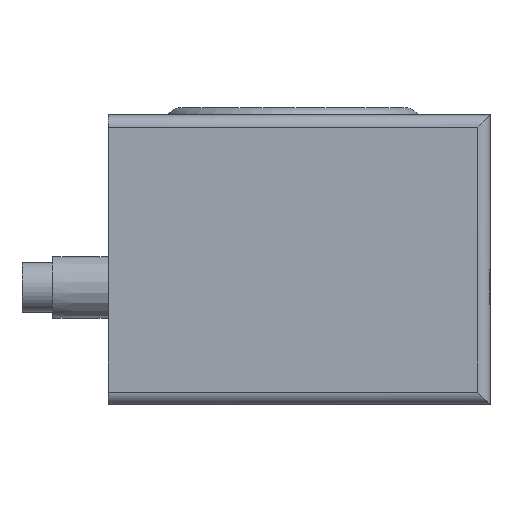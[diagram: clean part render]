
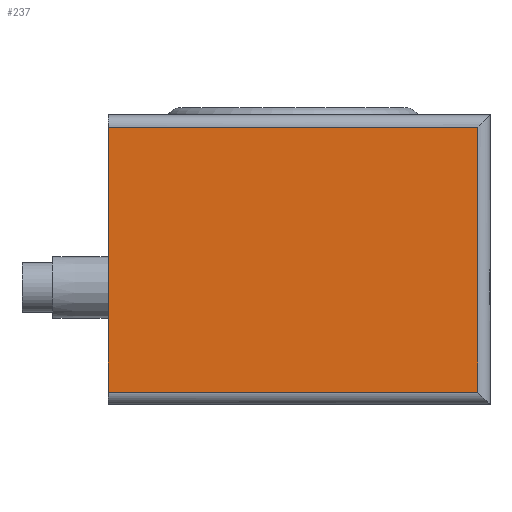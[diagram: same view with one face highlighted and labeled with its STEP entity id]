
A CAD part, left-side view. The second image highlights one B-rep face of the part: STEP entity #237.
In plain terms, the highlighted planar face has unit normal (-1, 0, 0).
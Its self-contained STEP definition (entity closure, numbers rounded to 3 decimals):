
#237=ADVANCED_FACE('',(#492),#493,.F.);
#492=FACE_OUTER_BOUND('',#767,.T.);
#493=PLANE('',#768);
#767=EDGE_LOOP('',(#1191,#1192,#1193,#1194));
#768=AXIS2_PLACEMENT_3D('',#1195,#1196,#1197);
#1191=ORIENTED_EDGE('',*,*,#1552,.T.);
#1192=ORIENTED_EDGE('',*,*,#1545,.T.);
#1193=ORIENTED_EDGE('',*,*,#1553,.T.);
#1194=ORIENTED_EDGE('',*,*,#1554,.T.);
#1195=CARTESIAN_POINT('',(-33.0,0.,14.0));
#1196=DIRECTION('',(1.0,0.0,0.0));
#1197=DIRECTION('',(0.0,1.0,0.0));
#1545=EDGE_CURVE('',#1815,#1813,#1816,.T.);
#1552=EDGE_CURVE('',#1824,#1815,#1825,.T.);
#1553=EDGE_CURVE('',#1813,#1826,#1827,.T.);
#1554=EDGE_CURVE('',#1826,#1824,#1828,.T.);
#1813=VERTEX_POINT('',#2306);
#1815=VERTEX_POINT('',#2308);
#1816=LINE('',#2309,#2310);
#1824=VERTEX_POINT('',#2319);
#1825=LINE('',#2320,#2321);
#1826=VERTEX_POINT('',#2322);
#1827=LINE('',#2323,#2324);
#1828=LINE('',#2325,#2326);
#2306=CARTESIAN_POINT('',(-33.0,-30.0,13.0));
#2308=CARTESIAN_POINT('',(-33.0,-30.0,-8.5));
#2309=CARTESIAN_POINT('',(-33.0,-30.0,14.0));
#2310=VECTOR('',#2572,1.0);
#2319=CARTESIAN_POINT('',(-33.0,0.,-8.5));
#2320=CARTESIAN_POINT('',(-33.0,0.,-8.5));
#2321=VECTOR('',#2583,1.0);
#2322=CARTESIAN_POINT('',(-33.0,0.,13.0));
#2323=CARTESIAN_POINT('',(-33.0,0.,13.0));
#2324=VECTOR('',#2584,1.0);
#2325=CARTESIAN_POINT('',(-33.0,0.,14.0));
#2326=VECTOR('',#2585,1.0);
#2572=DIRECTION('',(0.0,0.0,1.0));
#2583=DIRECTION('',(0.0,-1.0,0.0));
#2584=DIRECTION('',(0.0,1.0,0.0));
#2585=DIRECTION('',(0.0,0.0,-1.0));
